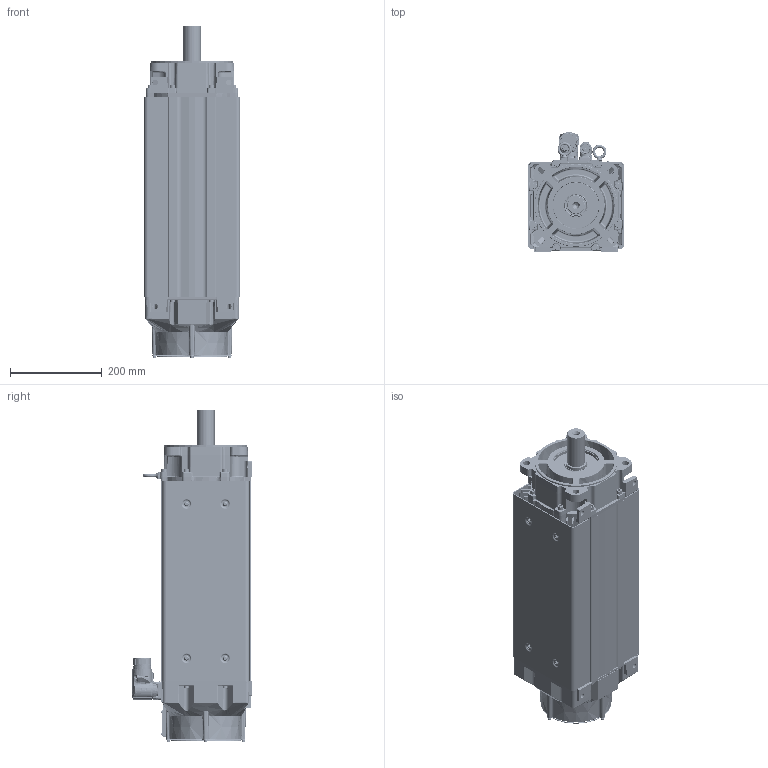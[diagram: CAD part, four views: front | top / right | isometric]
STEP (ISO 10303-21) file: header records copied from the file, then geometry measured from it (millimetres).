
FILE_DESCRIPTION((''),'2;1');
FILE_NAME('VPC-B2155D-SK74FX_ASM','2016-09-27T',('SRGaddam'),('Rockwell Automation'),'PRO/ENGINEER BY PARAMETRIC TECHNOLOGY CORPORATION, 2012480','PRO/ENGINEER BY PARAMETRIC TECHNOLOGY CORPORATION, 2012480','');
FILE_SCHEMA(('CONFIG_CONTROL_DESIGN'));
Products named in the file (46): 10001238886_AF0; 10001298482_AF22; 10001284445_ASM; CH31X150; 10001371539; 10000569218; 10001416313; 10001587021; 10001257630_AF255; 10001300098_AF227; 10001284488_ASM; 10001289764; 10002069468; 10001935397; 10001713570; 10001713572_ASM; 91290A150BR; 10001289776; CH4X050; 10001587458; 91290A115; 10001336508; 10001409703; 10001299929; 10001284567; 10001518963; 91290A148BR; 10001587431; 91290A139BR; 10000231113; 10001289808_ASM; 10001609981; 0002-5005; 10001586886; 10001369859_KEYLESS; 142403; 125284; 142403-1_ASM; 221404-Q12; M940_ASM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
Assembly tree (87 placements, depth 4):
  VPC-B2155D-SK74FX_ASM
    10001284445_ASM
      10001238886_AF0
      10001298482_AF22
    CH31X150  x8
    10001371539
    10000569218
    10001416313  x2
    10001587021  x8
    10001284488_ASM
      10001257630_AF255
      10001300098_AF227
    10001289808_ASM
      10001289764
      10002069468
      10001713572_ASM
        10001935397
        10001713570
      91290A150BR  x4
      10001289776
      CH4X050  x2
      10001587458
      91290A115  x5
      10001336508
      10001409703
      10001299929
      10001284567
      10001518963
      91290A148BR  x8
      10001587431
      91290A139BR
      10000231113
    10001609981
    0002-5005  x2
    10001586886  x6
    10001369859_KEYLESS
    M940_ASM
      142403-1_ASM
        142403
        125284
      221404-Q12  x4
    M623_ASM
      142414-1_623_ASM
        142414_623
        135798_623
      10000172464  x4
Bounding box: 210.91 x 260.15 x 722.61 mm (x, y, z)
Volume: 6835475.2 mm3; surface area: 2222347 mm2
Topology: 88 solids, 88 shells, 7415 faces, 17795 edges, 10859 vertices
Faces by surface type: plane 2170, cylinder 1993, bspline 1407, cone 978, torus 688, sphere 143, revolution 30, extrusion 6
Entity records: 251710 total; most frequent: CARTESIAN_POINT 116209, ORIENTED_EDGE 29418, DIRECTION 26281, EDGE_CURVE 14709, AXIS2_PLACEMENT_3D 10371, VERTEX_POINT 9098, EDGE_LOOP 6605, FACE_OUTER_BOUND 6056
